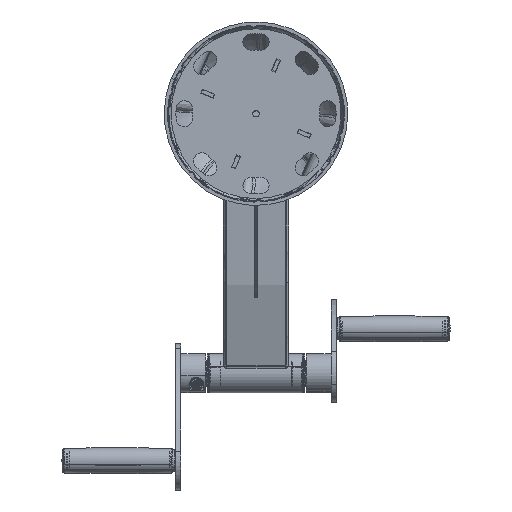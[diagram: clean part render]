
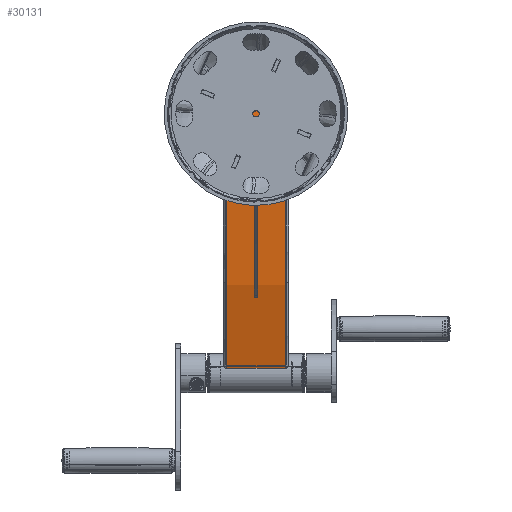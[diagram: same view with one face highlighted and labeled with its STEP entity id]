
A CAD part, front view. The second image highlights one B-rep face of the part: STEP entity #30131.
In plain terms, the highlighted cylindrical face has radius 775 mm (diameter 1550 mm), a partial arc.
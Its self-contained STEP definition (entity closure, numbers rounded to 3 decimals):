
#6106 = VERTEX_POINT ( 'NONE', #33406 ) ;
#7582 = EDGE_CURVE ( 'NONE', #90909, #6106, #58086, .T. ) ;
#8333 = CARTESIAN_POINT ( 'NONE',  ( 0., 0., -216.752 ) ) ;
#8945 = VERTEX_POINT ( 'NONE', #48923 ) ;
#11386 = LINE ( 'NONE', #41311, #86034 ) ;
#11530 = CIRCLE ( 'NONE', #45394, 775. ) ;
#15085 = CARTESIAN_POINT ( 'NONE',  ( 53.281, 773.166, 45. ) ) ;
#15667 = CARTESIAN_POINT ( 'NONE',  ( 427.911, 646.155, -45. ) ) ;
#17764 = CARTESIAN_POINT ( 'NONE',  ( 0., 0., -45. ) ) ;
#23424 = CARTESIAN_POINT ( 'NONE',  ( 0., 0., 45. ) ) ;
#28610 = EDGE_CURVE ( 'NONE', #8945, #90909, #11386, .T. ) ;
#28888 = ORIENTED_EDGE ( 'NONE', *, *, #38376, .F. ) ;
#30131 = ADVANCED_FACE ( 'NONE', ( #95100 ), #113217, .T. ) ;
#32350 = EDGE_CURVE ( 'NONE', #101942, #6106, #91336, .T. ) ;
#33406 = CARTESIAN_POINT ( 'NONE',  ( 427.911, 646.155, 45. ) ) ;
#37634 = DIRECTION ( 'NONE',  ( -1., 0., 0. ) ) ;
#38376 = EDGE_CURVE ( 'NONE', #8945, #101942, #11530, .T. ) ;
#40086 = DIRECTION ( 'NONE',  ( 0., 0., 1. ) ) ;
#41311 = CARTESIAN_POINT ( 'NONE',  ( 53.281, 773.166, -50. ) ) ;
#45394 = AXIS2_PLACEMENT_3D ( 'NONE', #17764, #55857, #54637 ) ;
#48107 = AXIS2_PLACEMENT_3D ( 'NONE', #23424, #61511, #120209 ) ;
#48923 = CARTESIAN_POINT ( 'NONE',  ( 53.281, 773.166, -45. ) ) ;
#54637 = DIRECTION ( 'NONE',  ( -1., 0., 0. ) ) ;
#55857 = DIRECTION ( 'NONE',  ( 0., 0., -1. ) ) ;
#58086 = CIRCLE ( 'NONE', #48107, 775. ) ;
#61511 = DIRECTION ( 'NONE',  ( 0., 0., -1. ) ) ;
#63378 = VECTOR ( 'NONE', #81937, 1000. ) ;
#72585 = CARTESIAN_POINT ( 'NONE',  ( 427.911, 646.155, 0. ) ) ;
#74154 = EDGE_LOOP ( 'NONE', ( #82592, #86396, #96010, #28888 ) ) ;
#81937 = DIRECTION ( 'NONE',  ( 0., 0., 1. ) ) ;
#82592 = ORIENTED_EDGE ( 'NONE', *, *, #28610, .T. ) ;
#84155 = AXIS2_PLACEMENT_3D ( 'NONE', #8333, #112600, #37634 ) ;
#86034 = VECTOR ( 'NONE', #40086, 1000. ) ;
#86396 = ORIENTED_EDGE ( 'NONE', *, *, #7582, .T. ) ;
#90909 = VERTEX_POINT ( 'NONE', #15085 ) ;
#91336 = LINE ( 'NONE', #72585, #63378 ) ;
#95100 = FACE_OUTER_BOUND ( 'NONE', #74154, .T. ) ;
#96010 = ORIENTED_EDGE ( 'NONE', *, *, #32350, .F. ) ;
#101942 = VERTEX_POINT ( 'NONE', #15667 ) ;
#112600 = DIRECTION ( 'NONE',  ( 0., 0., -1. ) ) ;
#113217 = CYLINDRICAL_SURFACE ( 'NONE', #84155, 775. ) ;
#120209 = DIRECTION ( 'NONE',  ( -1., 0., 0. ) ) ;
